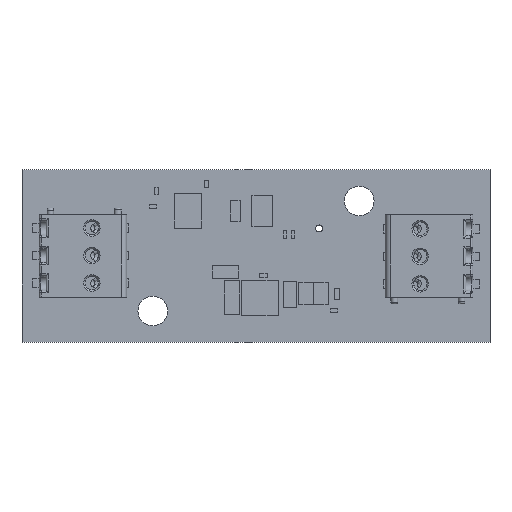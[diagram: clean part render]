
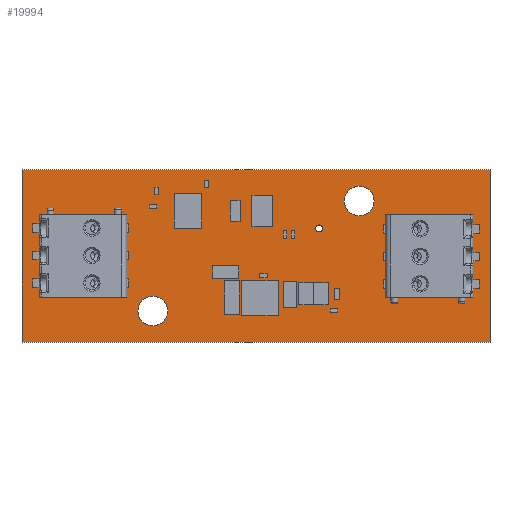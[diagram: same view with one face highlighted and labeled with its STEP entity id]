
A CAD part, top view. The second image highlights one B-rep face of the part: STEP entity #19994.
In plain terms, the highlighted planar face has unit normal (0, 0, 1).
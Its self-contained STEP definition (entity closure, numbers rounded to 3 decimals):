
#27 = ORIENTED_EDGE ( 'NONE', *, *, #13741, .T. ) ;
#245 = CARTESIAN_POINT ( 'NONE',  ( 68., 25., 1.599 ) ) ;
#335 = CARTESIAN_POINT ( 'NONE',  ( 21.15, 4.5, 1.599 ) ) ;
#730 = ORIENTED_EDGE ( 'NONE', *, *, #5073, .F. ) ;
#1085 = CIRCLE ( 'NONE', #2584, 0.5 ) ;
#1142 = DIRECTION ( 'NONE',  ( 0., 0., 1. ) ) ;
#1227 = CARTESIAN_POINT ( 'NONE',  ( 49., 20.5, 1.599 ) ) ;
#1316 = CIRCLE ( 'NONE', #10835, 0.5 ) ;
#1343 = ORIENTED_EDGE ( 'NONE', *, *, #9352, .F. ) ;
#2265 = CIRCLE ( 'NONE', #9139, 2.15 ) ;
#2584 = AXIS2_PLACEMENT_3D ( 'NONE', #11973, #1142, #13794 ) ;
#2829 = LINE ( 'NONE', #12185, #11883 ) ;
#2979 = LINE ( 'NONE', #6668, #21608 ) ;
#3026 = DIRECTION ( 'NONE',  ( 1., 0., 0. ) ) ;
#3050 = EDGE_CURVE ( 'NONE', #6752, #20935, #6582, .T. ) ;
#3194 = AXIS2_PLACEMENT_3D ( 'NONE', #19691, #17972, #7179 ) ;
#3306 = DIRECTION ( 'NONE',  ( 0., 0., 1. ) ) ;
#3488 = FACE_BOUND ( 'NONE', #7405, .T. ) ;
#3528 = CARTESIAN_POINT ( 'NONE',  ( 19., 4.5, 1.599 ) ) ;
#3541 = DIRECTION ( 'NONE',  ( 0., 0., 1. ) ) ;
#4084 = FACE_OUTER_BOUND ( 'NONE', #8941, .T. ) ;
#4105 = VERTEX_POINT ( 'NONE', #21538 ) ;
#4229 = CIRCLE ( 'NONE', #8652, 2.15 ) ;
#4236 = VERTEX_POINT ( 'NONE', #9669 ) ;
#4285 = CARTESIAN_POINT ( 'NONE',  ( 46.85, 20.5, 1.599 ) ) ;
#4873 = CIRCLE ( 'NONE', #8923, 2.15 ) ;
#5073 = EDGE_CURVE ( 'NONE', #23109, #4236, #4229, .T. ) ;
#5364 = DIRECTION ( 'NONE',  ( 1., 0., 0. ) ) ;
#6582 = CIRCLE ( 'NONE', #11799, 2.15 ) ;
#6668 = CARTESIAN_POINT ( 'NONE',  ( 68., 0., 1.599 ) ) ;
#6752 = VERTEX_POINT ( 'NONE', #15970 ) ;
#7179 = DIRECTION ( 'NONE',  ( 1., 0., 0. ) ) ;
#7204 = EDGE_CURVE ( 'NONE', #8836, #15287, #2829, .T. ) ;
#7261 = EDGE_CURVE ( 'NONE', #4236, #23109, #2265, .T. ) ;
#7353 = VECTOR ( 'NONE', #18312, 1000. ) ;
#7405 = EDGE_LOOP ( 'NONE', ( #1343, #9953 ) ) ;
#7406 = EDGE_CURVE ( 'NONE', #16797, #13082, #21736, .T. ) ;
#7954 = DIRECTION ( 'NONE',  ( 0., -1., 0. ) ) ;
#8314 = FACE_BOUND ( 'NONE', #14110, .T. ) ;
#8652 = AXIS2_PLACEMENT_3D ( 'NONE', #1227, #13873, #3026 ) ;
#8836 = VERTEX_POINT ( 'NONE', #21520 ) ;
#8923 = AXIS2_PLACEMENT_3D ( 'NONE', #3528, #16171, #5364 ) ;
#8941 = EDGE_LOOP ( 'NONE', ( #10493, #12531, #22355, #27 ) ) ;
#9139 = AXIS2_PLACEMENT_3D ( 'NONE', #14161, #3306, #15950 ) ;
#9171 = EDGE_CURVE ( 'NONE', #13082, #8836, #10102, .T. ) ;
#9352 = EDGE_CURVE ( 'NONE', #4105, #9700, #1316, .T. ) ;
#9568 = DIRECTION ( 'NONE',  ( 0., 0., 1. ) ) ;
#9669 = CARTESIAN_POINT ( 'NONE',  ( 51.15, 20.5, 1.599 ) ) ;
#9700 = VERTEX_POINT ( 'NONE', #12459 ) ;
#9953 = ORIENTED_EDGE ( 'NONE', *, *, #18792, .F. ) ;
#10102 = LINE ( 'NONE', #22297, #19107 ) ;
#10315 = DIRECTION ( 'NONE',  ( 0., 1., 0. ) ) ;
#10493 = ORIENTED_EDGE ( 'NONE', *, *, #7406, .T. ) ;
#10835 = AXIS2_PLACEMENT_3D ( 'NONE', #20329, #9568, #22160 ) ;
#11799 = AXIS2_PLACEMENT_3D ( 'NONE', #14375, #3541, #16184 ) ;
#11883 = VECTOR ( 'NONE', #14009, 1000. ) ;
#11973 = CARTESIAN_POINT ( 'NONE',  ( 43.18, 16.51, 1.599 ) ) ;
#12081 = ORIENTED_EDGE ( 'NONE', *, *, #7261, .F. ) ;
#12185 = CARTESIAN_POINT ( 'NONE',  ( 0., 0., 1.599 ) ) ;
#12459 = CARTESIAN_POINT ( 'NONE',  ( 43.68, 16.51, 1.599 ) ) ;
#12531 = ORIENTED_EDGE ( 'NONE', *, *, #9171, .T. ) ;
#12749 = CARTESIAN_POINT ( 'NONE',  ( 68., 0., 1.599 ) ) ;
#13082 = VERTEX_POINT ( 'NONE', #16191 ) ;
#13136 = FACE_BOUND ( 'NONE', #14355, .T. ) ;
#13741 = EDGE_CURVE ( 'NONE', #15287, #16797, #2979, .T. ) ;
#13794 = DIRECTION ( 'NONE',  ( 1., 0., 0. ) ) ;
#13857 = CARTESIAN_POINT ( 'NONE',  ( 68., 25., 1.599 ) ) ;
#13873 = DIRECTION ( 'NONE',  ( 0., 0., 1. ) ) ;
#14009 = DIRECTION ( 'NONE',  ( 1., 0., 0. ) ) ;
#14110 = EDGE_LOOP ( 'NONE', ( #17106, #19150 ) ) ;
#14161 = CARTESIAN_POINT ( 'NONE',  ( 49., 20.5, 1.599 ) ) ;
#14348 = PLANE ( 'NONE',  #3194 ) ;
#14355 = EDGE_LOOP ( 'NONE', ( #730, #12081 ) ) ;
#14375 = CARTESIAN_POINT ( 'NONE',  ( 19., 4.5, 1.599 ) ) ;
#15287 = VERTEX_POINT ( 'NONE', #12749 ) ;
#15859 = EDGE_CURVE ( 'NONE', #20935, #6752, #4873, .T. ) ;
#15950 = DIRECTION ( 'NONE',  ( 1., 0., 0. ) ) ;
#15970 = CARTESIAN_POINT ( 'NONE',  ( 16.85, 4.5, 1.599 ) ) ;
#16171 = DIRECTION ( 'NONE',  ( 0., 0., 1. ) ) ;
#16184 = DIRECTION ( 'NONE',  ( 1., 0., 0. ) ) ;
#16191 = CARTESIAN_POINT ( 'NONE',  ( 0., 25., 1.599 ) ) ;
#16797 = VERTEX_POINT ( 'NONE', #13857 ) ;
#17106 = ORIENTED_EDGE ( 'NONE', *, *, #3050, .F. ) ;
#17972 = DIRECTION ( 'NONE',  ( 0., 0., 1. ) ) ;
#18312 = DIRECTION ( 'NONE',  ( -1., 0., 0. ) ) ;
#18792 = EDGE_CURVE ( 'NONE', #9700, #4105, #1085, .T. ) ;
#19107 = VECTOR ( 'NONE', #7954, 1000. ) ;
#19150 = ORIENTED_EDGE ( 'NONE', *, *, #15859, .F. ) ;
#19691 = CARTESIAN_POINT ( 'NONE',  ( 0., 25., 1.599 ) ) ;
#19994 = ADVANCED_FACE ( 'NONE', ( #13136, #4084, #8314, #3488 ), #14348, .T. ) ;
#20329 = CARTESIAN_POINT ( 'NONE',  ( 43.18, 16.51, 1.599 ) ) ;
#20935 = VERTEX_POINT ( 'NONE', #335 ) ;
#21520 = CARTESIAN_POINT ( 'NONE',  ( 0., 0., 1.599 ) ) ;
#21538 = CARTESIAN_POINT ( 'NONE',  ( 42.68, 16.51, 1.599 ) ) ;
#21608 = VECTOR ( 'NONE', #10315, 1000. ) ;
#21736 = LINE ( 'NONE', #245, #7353 ) ;
#22160 = DIRECTION ( 'NONE',  ( 1., 0., 0. ) ) ;
#22297 = CARTESIAN_POINT ( 'NONE',  ( 0., 25., 1.599 ) ) ;
#22355 = ORIENTED_EDGE ( 'NONE', *, *, #7204, .T. ) ;
#23109 = VERTEX_POINT ( 'NONE', #4285 ) ;
